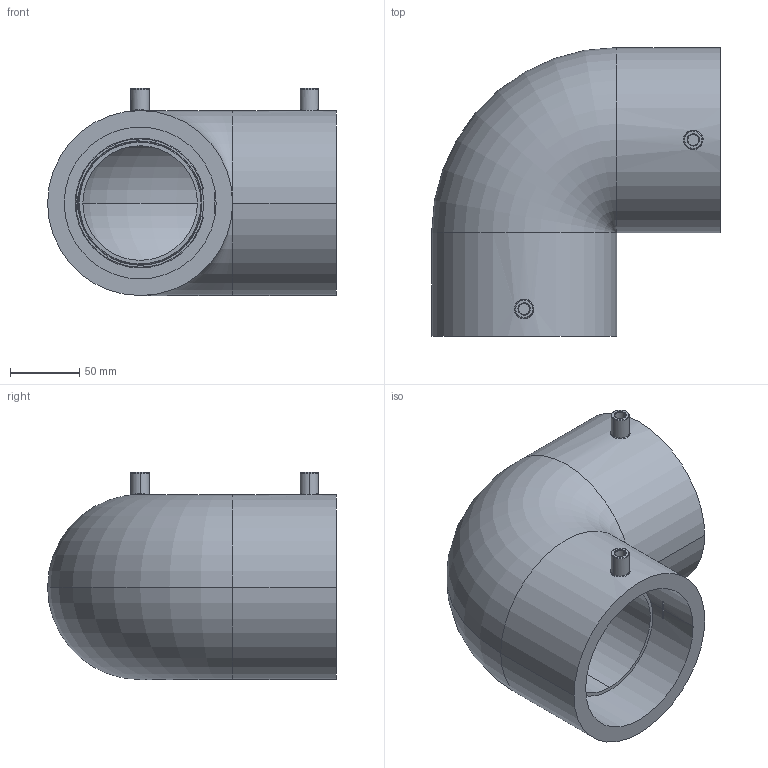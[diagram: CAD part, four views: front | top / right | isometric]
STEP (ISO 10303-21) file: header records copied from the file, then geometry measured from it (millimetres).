
FILE_DESCRIPTION (( 'STEP AP203' ), '1' );
FILE_NAME ('KP_23-110C.step', '2011-08-08T11:37:06', ( '' ), ( '' ), 'SwSTEP 2.0', 'SolidWorks 2011', '' );
FILE_SCHEMA (( 'CONFIG_CONTROL_DESIGN' ));
Length unit declared in the file: millimetre
Products named in the file (1): KP_23-110C
Bounding box: 209.1 x 209.1 x 150 mm (x, y, z)
Volume: 1375308.3 mm3; surface area: 266072.9 mm2
Topology: 1 solids, 1 shells, 190 faces, 455 edges, 270 vertices
Faces by surface type: cylinder 72, torus 48, plane 34, bspline 28, cone 4, sphere 4
Entity records: 7193 total; most frequent: CARTESIAN_POINT 2811, DIRECTION 967, ORIENTED_EDGE 886, EDGE_CURVE 443, AXIS2_PLACEMENT_3D 425, VERTEX_POINT 270, CIRCLE 262, EDGE_LOOP 207
